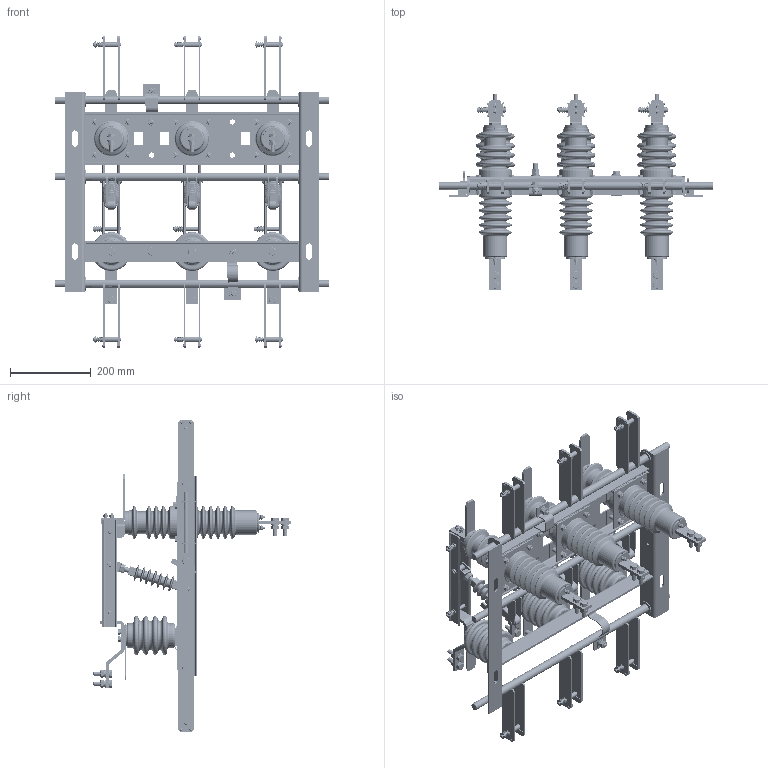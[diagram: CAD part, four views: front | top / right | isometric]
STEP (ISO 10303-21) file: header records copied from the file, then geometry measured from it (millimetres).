
FILE_DESCRIPTION (( 'STEP AP214' ), '1' );
FILE_NAME ('Ðàçúåäèíèòåëü âûñîêîâîëüòíûé ÐÂÔÇ-10630-III-II-È2-ÓÕË2 (ñ ïðèâ).STEP', '2023-02-06T07:06:00', ( '' ), ( '' ), 'SwSTEP 2.0', 'SolidWorks 2018', '' );
FILE_SCHEMA (( 'AUTOMOTIVE_DESIGN' ));
Length unit declared in the file: millimetre
Products named in the file (1): Ðàçúåäèíèòåëü âûñîêîâîëüòíûé ÐÂÔÇ-10630-III-II-È2-ÓÕË2 (ñ ïðèâ)
Bounding box: 680 x 488.23 x 772 mm (x, y, z)
Volume: 8278609.6 mm3; surface area: 2085529.9 mm2
Topology: 1 solids, 2 shells, 3983 faces, 9995 edges, 6393 vertices
Faces by surface type: plane 2301, cylinder 1061, cone 350, torus 216, bspline 31, sphere 24
Full cylindrical faces by diameter (mm): 4 x24, 6 x27, 6.2 x12, 6.4 x12, 8 x80, 8.2 x20, 8.3 x6, 8.376 x12, 8.4 x30, 8.5 x36, 9 x6, 9.368 x8, 9.874 x14, 10 x36, 10.5 x28, 11 x17, 12 x44, 12.1 x4, 13 x9, 13.704 x15, 16 x30, 16.15 x3, 18 x6, 18.1 x1, 20 x32, 20.011 x5, 20.511 x3, 20.603 x3, 22 x18, 24 x4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
Entity records: 235476 total; most frequent: CARTESIAN_POINT 103933, DIRECTION 17746, ORIENTED_EDGE 16908, EDGE_CURVE 8454, AXIS2_PLACEMENT_3D 6850, VERTEX_POINT 6007, EDGE_LOOP 5927, FACE_OUTER_BOUND 4765
